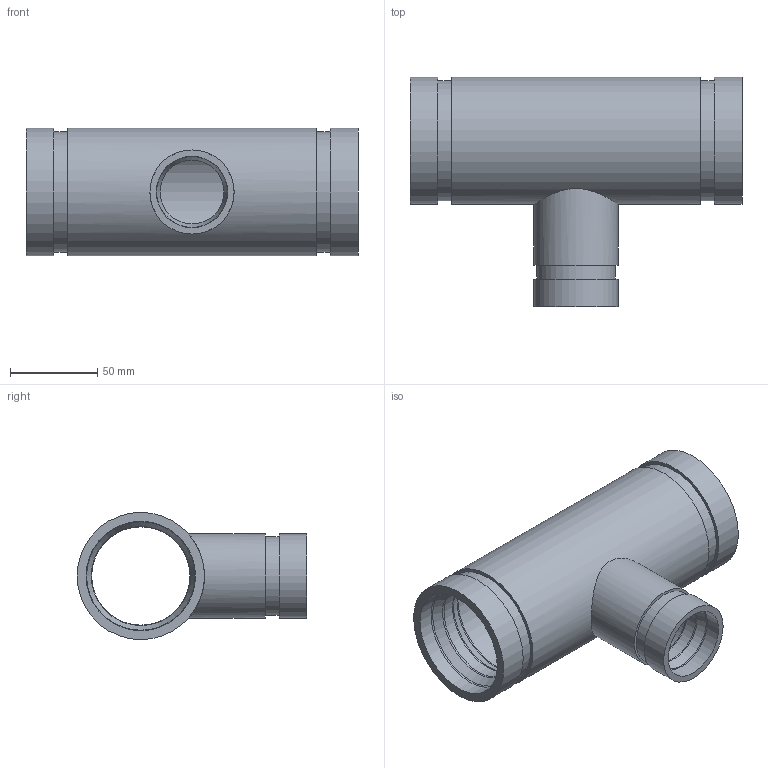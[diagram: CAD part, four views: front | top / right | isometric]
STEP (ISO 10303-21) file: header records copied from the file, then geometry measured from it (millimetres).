
FILE_DESCRIPTION(/* description */ ('VIC REDUCING TEE No 425H-SS','CAx-IF Rec.Pracs.---Representation and Presentation of Product Manufacturing Information (PMI)---4.0---2014-10-13'),/* implementation_level */ '2;1');
FILE_NAME(/* name */ 'C:\Users\kkamble\AppData\Roaming\Autodesk\ApplicationPlugins\Back Up\Victaulic_SS-OGS_Tee Reducing_Sched 40S_No 425H SS (OGS)\Victaulic_SS-OGS_Tee Reducing_Sched 40S_No 425H SS (OGS)_02.5x01.5 (65x40).stp',/* time_stamp */ '2020-08-27T17:19:33+06:00',/* author */ ('CORINNE GRAY'),/* organization */ ('Victaulic'),/* preprocessor_version */ 'ST-DEVELOPER v17.2',/* originating_system */ 'Autodesk Inventor 2019',/* authorisation */ '');
FILE_SCHEMA (('AP242_MANAGED_MODEL_BASED_3D_ENGINEERING_MIM_LF { 1 0 10303 442 1 1 4 }'));
Length unit declared in the file: inch
Products named in the file (1): 425H SS-02.5x01.5
Bounding box: 190.5 x 131.76 x 73.03 mm (x, y, z)
Volume: 246028.2 mm3; surface area: 100660.1 mm2
Topology: 1 solids, 1 shells, 43 faces, 134 edges, 100 vertices
Faces by surface type: cylinder 16, torus 12, plane 9, cone 6
Full cylindrical faces by diameter (mm): 36.703 x1, 40.894 x2, 45.085 x1, 48.26 x2, 56.388 x2, 62.738 x3, 69.088 x2, 73.025 x3
Entity records: 1919 total; most frequent: CARTESIAN_POINT 427, DIRECTION 352, ORIENTED_EDGE 268, AXIS2_PLACEMENT_3D 165, EDGE_CURVE 134, CIRCLE 108, VERTEX_POINT 100, EDGE_LOOP 54
